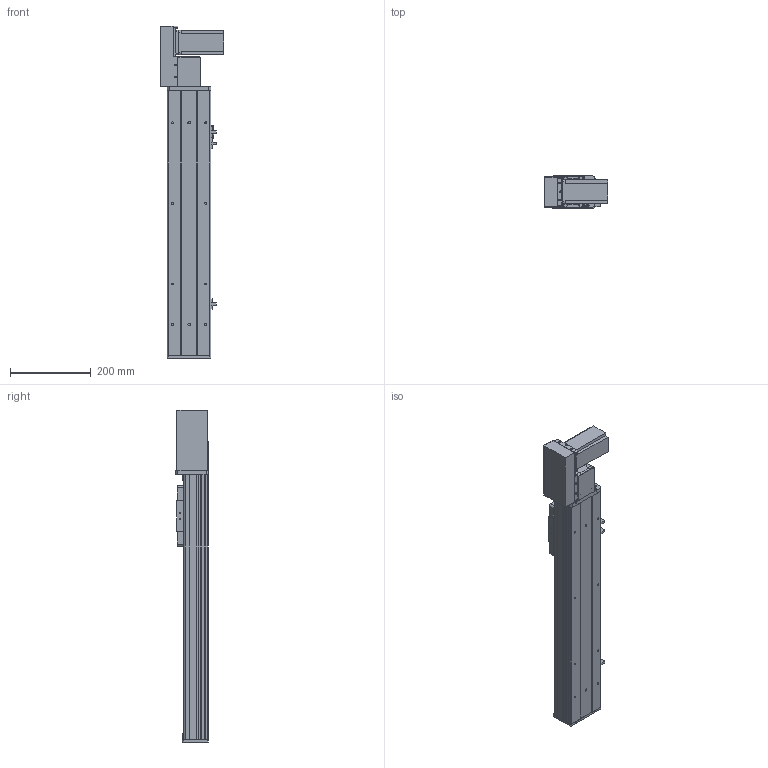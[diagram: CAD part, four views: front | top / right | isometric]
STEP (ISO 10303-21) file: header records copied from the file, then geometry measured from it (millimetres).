
FILE_DESCRIPTION (( 'STEP AP203' ), '1' );
FILE_NAME ('Y10CB-D90-S400-BL-P400W.STEP', '2020-02-15T07:40:10', ( '微软用户' ), ( '微软中国' ), 'SwSTEP 2.0', 'SolidWorks 2017', '' );
FILE_SCHEMA (( 'CONFIG_CONTROL_DESIGN' ));
Length unit declared in the file: millimetre
Products named in the file (18): 10CB9-掛极; 0B-萇儂楊擘啣; 10CB-耜裔; san松下电机400不带刹车----; Y135C-陔俋离換覜結え-; 0B-源倛裔啣; Y100-135俋离換覜ん--; 0B-埴倛裔啣; 0CB-雄赽釱---; Y10CB-D90-S400-BL-P400W; Y俋欶BR----; 0Cb-俋欶---; 10CB-詩湍-; Y10B-々湍喘謫眊楊擘啣--; Y10CB- 掛极耜裔啣-毀---; Y10B--々湍喘謫眊--666; Y10C---詩湍揤啣; Y10B-耜蚾蟀諉啣----
Assembly tree (21 placements, depth 2):
  Y10CB-D90-S400-BL-P400W
    0CB-雄赽釱---
    0Cb-俋欶---
    Y10B-々湍喘謫眊楊擘啣--
    Y10B--々湍喘謫眊--666
    Y10B-耜蚾蟀諉啣----
    0B-萇儂楊擘啣
    san松下电机400不带刹车----
    0B-源倛裔啣
    0B-埴倛裔啣
    Y俋欶BR----
    10CB-詩湍-
    Y10CB- 掛极耜裔啣-毀---  x2
    Y10C---詩湍揤啣  x2
    10CB9-掛极
    10CB-耜裔
    Y135C-陔俋离換覜結え-
    Y100-135俋离換覜ん--  x3
Bounding box: 157.5 x 80.5 x 822.5 mm (x, y, z)
Volume: 2089735.5 mm3; surface area: 884448.6 mm2
Topology: 21 solids, 21 shells, 954 faces, 2523 edges, 1658 vertices
Faces by surface type: plane 473, cylinder 457, cone 24
Entity records: 29404 total; most frequent: CARTESIAN_POINT 5025, DIRECTION 4790, ORIENTED_EDGE 4516, EDGE_CURVE 2258, AXIS2_PLACEMENT_3D 1713, VERTEX_POINT 1484, LINE 1364, VECTOR 1364
